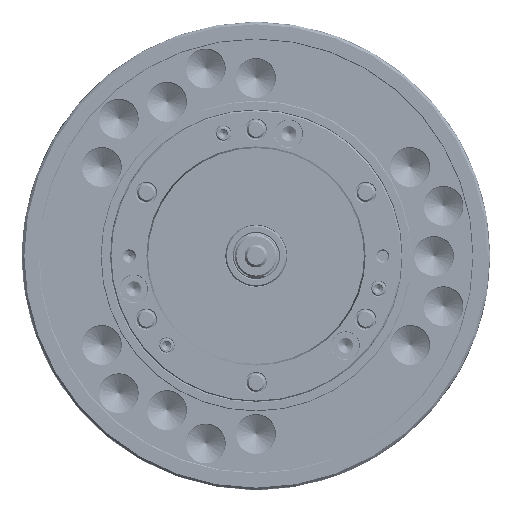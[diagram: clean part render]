
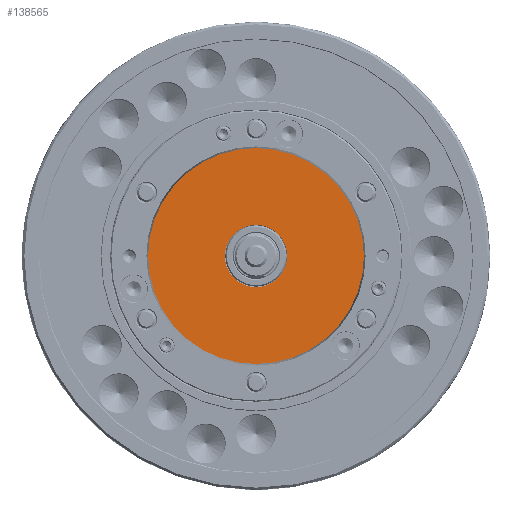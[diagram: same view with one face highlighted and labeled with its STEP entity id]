
A CAD part, left-side view. The second image highlights one B-rep face of the part: STEP entity #138565.
In plain terms, the highlighted planar face has unit normal (-1, 0, 0).
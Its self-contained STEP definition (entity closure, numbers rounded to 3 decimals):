
#19738 = ORIENTED_EDGE ( 'NONE', *, *, #84466, .F. ) ;
#22501 = EDGE_LOOP ( 'NONE', ( #252511, #102766 ) ) ;
#23024 = CIRCLE ( 'NONE', #179001, 40.6 ) ;
#34917 = CARTESIAN_POINT ( 'NONE',  ( -145., 0., 0. ) ) ;
#48008 = CARTESIAN_POINT ( 'NONE',  ( -145., 0., 40.6 ) ) ;
#67679 = ORIENTED_EDGE ( 'NONE', *, *, #191627, .F. ) ;
#69357 = DIRECTION ( 'NONE',  ( 0., 0., 1. ) ) ;
#70038 = DIRECTION ( 'NONE',  ( 0., 0., 1. ) ) ;
#72149 = CARTESIAN_POINT ( 'NONE',  ( -145., 0., -140.7 ) ) ;
#84466 = EDGE_CURVE ( 'NONE', #211722, #274370, #23024, .T. ) ;
#101840 = DIRECTION ( 'NONE',  ( -1., 0., 0. ) ) ;
#102766 = ORIENTED_EDGE ( 'NONE', *, *, #150983, .T. ) ;
#114734 = CIRCLE ( 'NONE', #195003, 140.7 ) ;
#117482 = CARTESIAN_POINT ( 'NONE',  ( -145., 0., 140.7 ) ) ;
#124123 = DIRECTION ( 'NONE',  ( 0., 0., 1. ) ) ;
#124480 = VERTEX_POINT ( 'NONE', #72149 ) ;
#130101 = DIRECTION ( 'NONE',  ( -1., 0., 0. ) ) ;
#138565 = ADVANCED_FACE ( 'NONE', ( #147496, #232650 ), #208931, .F. ) ;
#139794 = AXIS2_PLACEMENT_3D ( 'NONE', #34917, #101840, #124123 ) ;
#147496 = FACE_BOUND ( 'NONE', #262937, .T. ) ;
#148884 = CARTESIAN_POINT ( 'NONE',  ( -145., 140.7, 0. ) ) ;
#150983 = EDGE_CURVE ( 'NONE', #124480, #184497, #114734, .T. ) ;
#153127 = CIRCLE ( 'NONE', #139794, 40.6 ) ;
#171921 = CARTESIAN_POINT ( 'NONE',  ( -145., 0., 0. ) ) ;
#172414 = DIRECTION ( 'NONE',  ( -1., 0., 0. ) ) ;
#175410 = DIRECTION ( 'NONE',  ( -1., 0., 0. ) ) ;
#179001 = AXIS2_PLACEMENT_3D ( 'NONE', #208776, #172414, #210165 ) ;
#180859 = AXIS2_PLACEMENT_3D ( 'NONE', #148884, #235409, #213071 ) ;
#184497 = VERTEX_POINT ( 'NONE', #117482 ) ;
#191627 = EDGE_CURVE ( 'NONE', #274370, #211722, #153127, .T. ) ;
#195003 = AXIS2_PLACEMENT_3D ( 'NONE', #171921, #130101, #70038 ) ;
#196371 = CARTESIAN_POINT ( 'NONE',  ( -145., 0., 0. ) ) ;
#208776 = CARTESIAN_POINT ( 'NONE',  ( -145., 0., 0. ) ) ;
#208931 = PLANE ( 'NONE',  #180859 ) ;
#210165 = DIRECTION ( 'NONE',  ( 0., 0., 1. ) ) ;
#211722 = VERTEX_POINT ( 'NONE', #236439 ) ;
#213071 = DIRECTION ( 'NONE',  ( 0., 0., -1. ) ) ;
#214005 = EDGE_CURVE ( 'NONE', #184497, #124480, #266050, .T. ) ;
#232650 = FACE_OUTER_BOUND ( 'NONE', #22501, .T. ) ;
#235409 = DIRECTION ( 'NONE',  ( 1., 0., 0. ) ) ;
#236439 = CARTESIAN_POINT ( 'NONE',  ( -145., 0., -40.6 ) ) ;
#252511 = ORIENTED_EDGE ( 'NONE', *, *, #214005, .T. ) ;
#262937 = EDGE_LOOP ( 'NONE', ( #67679, #19738 ) ) ;
#266050 = CIRCLE ( 'NONE', #275018, 140.7 ) ;
#274370 = VERTEX_POINT ( 'NONE', #48008 ) ;
#275018 = AXIS2_PLACEMENT_3D ( 'NONE', #196371, #175410, #69357 ) ;
